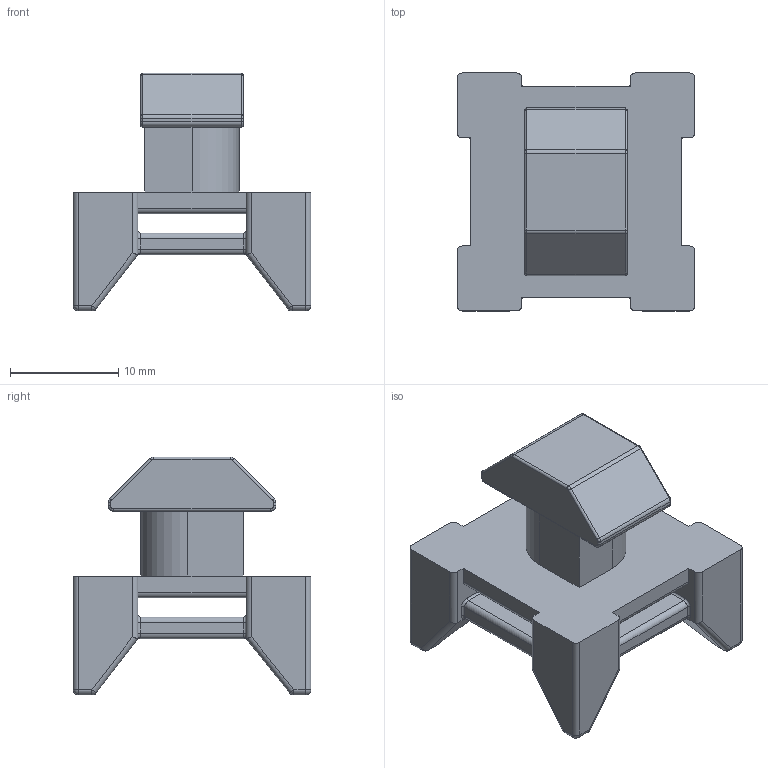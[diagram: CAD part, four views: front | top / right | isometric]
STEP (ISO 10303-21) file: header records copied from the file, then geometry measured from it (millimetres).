
FILE_DESCRIPTION (( 'STEP AP203' ), '1' );
FILE_NAME ('cross cable 10.STEP', '2012-05-29T20:29:46', ( '' ), ( '' ), 'SwSTEP 2.0', 'SolidWorks 2010', '' );
FILE_SCHEMA (( 'CONFIG_CONTROL_DESIGN' ));
Length unit declared in the file: millimetre
Products named in the file (1): cross cable 10
Bounding box: 22 x 22 x 22 mm (x, y, z)
Volume: 3367.4 mm3; surface area: 2695.5 mm2
Topology: 1 solids, 1 shells, 206 faces, 508 edges, 292 vertices
Faces by surface type: cylinder 96, plane 52, torus 28, sphere 16, bspline 14
Entity records: 6271 total; most frequent: CARTESIAN_POINT 1449, DIRECTION 1024, ORIENTED_EDGE 1000, EDGE_CURVE 500, AXIS2_PLACEMENT_3D 387, VERTEX_POINT 292, VECTOR 250, LINE 250
